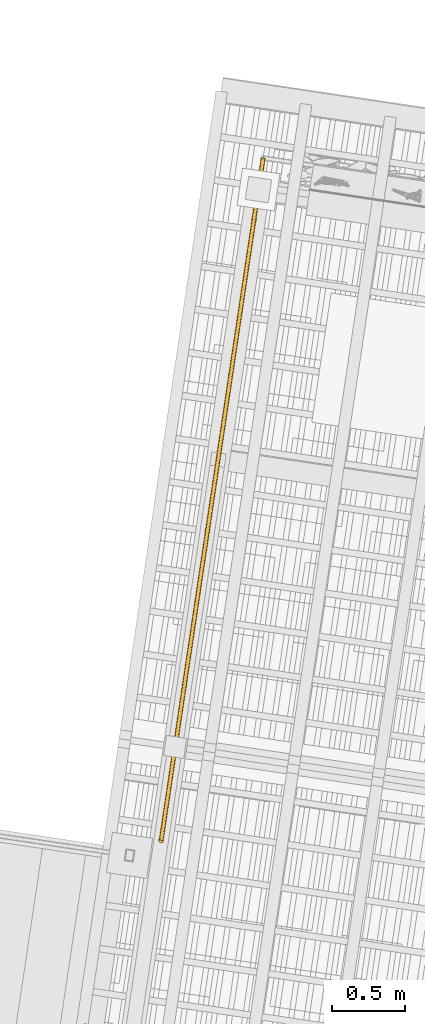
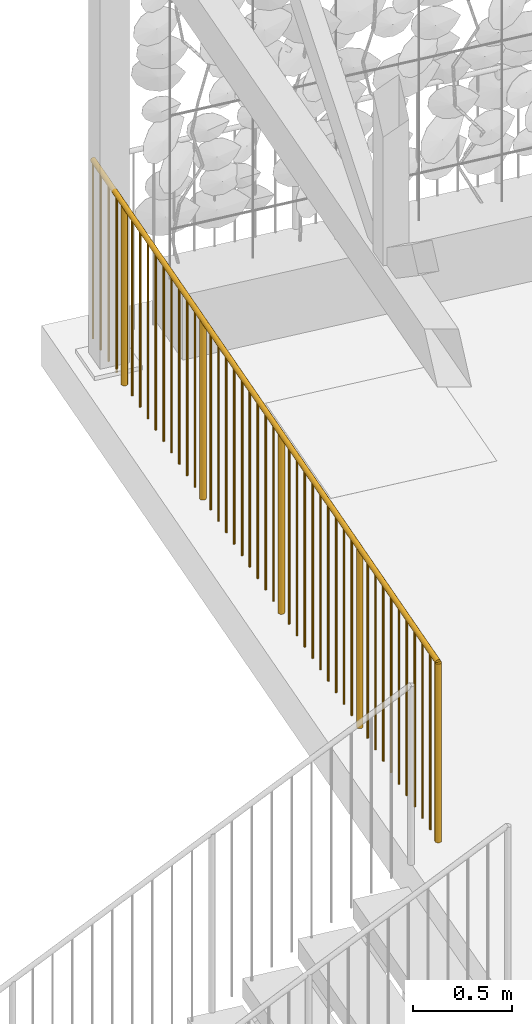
# One storey, part 127 of 131: 1 railing, 1 element without a shape of its own.
"""IFC4 building model written with IfcOpenShell, lengths in metres."""

from ifc_helpers import new_model, si_unit, direction, frame, origin_with_axes, place, context, subcontext, project, spatial, circle, extrude, material, element, aggregate, save


model = new_model("IFC4")

# Units and contexts
model_context = context("Model", 3, precision=1e-05, world=origin_with_axes(), true_north=direction((0.0, 1.0)))
body_context = subcontext(model_context, "Body", "Model", "MODEL_VIEW")
ifc_project = project(units=[si_unit("VOLUMEUNIT", "CUBIC_METRE"), si_unit("LENGTHUNIT", "METRE"), si_unit("AREAUNIT", "SQUARE_METRE")], contexts=[model_context])

# Site, building, storey
site_placement = place(None, origin_with_axes())
site = spatial("IfcSite", under=ifc_project, at=site_placement, Name="Lares · Rua das Mercês · artigo 4771")
building_placement = place(site_placement, frame((15.0, 9.7, 15.8), z_axis=(0.0, 0.0, 1.0), x_axis=(0.989015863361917, -0.147809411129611, 0.0)))
building = spatial("IfcBuilding", under=site, at=building_placement, Name="Casa Sobreposta")
storey_placement = place(building_placement, origin_with_axes())
storey = spatial("IfcBuildingStorey", under=building, at=storey_placement, Name="00 · Habitação e estacionamento", Elevation=15.8)

# Assembly, railing
assembly_placement = place(storey_placement, origin_with_axes())
assembly = element("IfcElementAssembly", 1, at=assembly_placement, inside=storey, Name="Pódio · terraço, casa térrea e cisterna", ObjectType="CISTERN_PODIUM", PredefinedType="USERDEFINED")
ifc_material = material(Name="Aço pintado / Stahl lackiert", Category="steel")
railing_placement = place(assembly_placement, origin_with_axes())
railing = element("IfcRailing", 2, at=railing_placement, material=ifc_material, Name="Pódio · guarda poente norte", PredefinedType="GUARDRAIL", context=body_context, shape_type="SweptSolid", body=[
    extrude(circle(Radius=0.015), frame((-6.05, 1.9, 1.06), z_axis=(0.0, 1.0, 0.0), x_axis=(1.0, 0.0, 0.0)), (0.0, 0.0, 1.0), 4.75),
    extrude(circle(Radius=0.0175), frame((-6.05, 1.9, -0.04), z_axis=(0.0, 0.0, 1.0), x_axis=(1.0, 0.0, 0.0)), (0.0, 0.0, 1.0), 1.1),
    extrude(circle(Radius=0.006), frame((-6.05, 2.00795454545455, -0.04), z_axis=(0.0, 0.0, 1.0), x_axis=(1.0, 0.0, 0.0)), (0.0, 0.0, 1.0), 1.1),
    extrude(circle(Radius=0.006), frame((-6.05, 2.11590909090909, -0.04), z_axis=(0.0, 0.0, 1.0), x_axis=(1.0, 0.0, 0.0)), (0.0, 0.0, 1.0), 1.1),
    extrude(circle(Radius=0.006), frame((-6.05, 2.22386363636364, -0.04), z_axis=(0.0, 0.0, 1.0), x_axis=(1.0, 0.0, 0.0)), (0.0, 0.0, 1.0), 1.1),
    extrude(circle(Radius=0.006), frame((-6.05, 2.33181818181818, -0.04), z_axis=(0.0, 0.0, 1.0), x_axis=(1.0, 0.0, 0.0)), (0.0, 0.0, 1.0), 1.1),
    extrude(circle(Radius=0.006), frame((-6.05, 2.43977272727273, -0.04), z_axis=(0.0, 0.0, 1.0), x_axis=(1.0, 0.0, 0.0)), (0.0, 0.0, 1.0), 1.1),
    extrude(circle(Radius=0.006), frame((-6.05, 2.54772727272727, -0.04), z_axis=(0.0, 0.0, 1.0), x_axis=(1.0, 0.0, 0.0)), (0.0, 0.0, 1.0), 1.1),
    extrude(circle(Radius=0.006), frame((-6.05, 2.65568181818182, -0.04), z_axis=(0.0, 0.0, 1.0), x_axis=(1.0, 0.0, 0.0)), (0.0, 0.0, 1.0), 1.1),
    extrude(circle(Radius=0.006), frame((-6.05, 2.76363636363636, -0.04), z_axis=(0.0, 0.0, 1.0), x_axis=(1.0, 0.0, 0.0)), (0.0, 0.0, 1.0), 1.1),
    extrude(circle(Radius=0.006), frame((-6.05, 2.87159090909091, -0.04), z_axis=(0.0, 0.0, 1.0), x_axis=(1.0, 0.0, 0.0)), (0.0, 0.0, 1.0), 1.1),
    extrude(circle(Radius=0.0175), frame((-6.05, 2.97954545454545, -0.04), z_axis=(0.0, 0.0, 1.0), x_axis=(1.0, 0.0, 0.0)), (0.0, 0.0, 1.0), 1.1),
    extrude(circle(Radius=0.006), frame((-6.05, 3.0875, -0.04), z_axis=(0.0, 0.0, 1.0), x_axis=(1.0, 0.0, 0.0)), (0.0, 0.0, 1.0), 1.1),
    extrude(circle(Radius=0.006), frame((-6.05, 3.19545454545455, -0.04), z_axis=(0.0, 0.0, 1.0), x_axis=(1.0, 0.0, 0.0)), (0.0, 0.0, 1.0), 1.1),
    extrude(circle(Radius=0.006), frame((-6.05, 3.30340909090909, -0.04), z_axis=(0.0, 0.0, 1.0), x_axis=(1.0, 0.0, 0.0)), (0.0, 0.0, 1.0), 1.1),
    extrude(circle(Radius=0.006), frame((-6.05, 3.41136363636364, -0.04), z_axis=(0.0, 0.0, 1.0), x_axis=(1.0, 0.0, 0.0)), (0.0, 0.0, 1.0), 1.1),
    extrude(circle(Radius=0.006), frame((-6.05, 3.51931818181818, -0.04), z_axis=(0.0, 0.0, 1.0), x_axis=(1.0, 0.0, 0.0)), (0.0, 0.0, 1.0), 1.1),
    extrude(circle(Radius=0.006), frame((-6.05, 3.62727272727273, -0.04), z_axis=(0.0, 0.0, 1.0), x_axis=(1.0, 0.0, 0.0)), (0.0, 0.0, 1.0), 1.1),
    extrude(circle(Radius=0.006), frame((-6.05, 3.73522727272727, -0.04), z_axis=(0.0, 0.0, 1.0), x_axis=(1.0, 0.0, 0.0)), (0.0, 0.0, 1.0), 1.1),
    extrude(circle(Radius=0.006), frame((-6.05, 3.84318181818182, -0.04), z_axis=(0.0, 0.0, 1.0), x_axis=(1.0, 0.0, 0.0)), (0.0, 0.0, 1.0), 1.1),
    extrude(circle(Radius=0.006), frame((-6.05, 3.95113636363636, -0.04), z_axis=(0.0, 0.0, 1.0), x_axis=(1.0, 0.0, 0.0)), (0.0, 0.0, 1.0), 1.1),
    extrude(circle(Radius=0.0175), frame((-6.05, 4.05909090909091, -0.04), z_axis=(0.0, 0.0, 1.0), x_axis=(1.0, 0.0, 0.0)), (0.0, 0.0, 1.0), 1.1),
    extrude(circle(Radius=0.006), frame((-6.05, 4.16704545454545, -0.04), z_axis=(0.0, 0.0, 1.0), x_axis=(1.0, 0.0, 0.0)), (0.0, 0.0, 1.0), 1.1),
    extrude(circle(Radius=0.006), frame((-6.05, 4.275, -0.04), z_axis=(0.0, 0.0, 1.0), x_axis=(1.0, 0.0, 0.0)), (0.0, 0.0, 1.0), 1.1),
    extrude(circle(Radius=0.006), frame((-6.05, 4.38295454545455, -0.04), z_axis=(0.0, 0.0, 1.0), x_axis=(1.0, 0.0, 0.0)), (0.0, 0.0, 1.0), 1.1),
    extrude(circle(Radius=0.006), frame((-6.05, 4.49090909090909, -0.04), z_axis=(0.0, 0.0, 1.0), x_axis=(1.0, 0.0, 0.0)), (0.0, 0.0, 1.0), 1.1),
    extrude(circle(Radius=0.006), frame((-6.05, 4.59886363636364, -0.04), z_axis=(0.0, 0.0, 1.0), x_axis=(1.0, 0.0, 0.0)), (0.0, 0.0, 1.0), 1.1),
    extrude(circle(Radius=0.006), frame((-6.05, 4.70681818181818, -0.04), z_axis=(0.0, 0.0, 1.0), x_axis=(1.0, 0.0, 0.0)), (0.0, 0.0, 1.0), 1.1),
    extrude(circle(Radius=0.006), frame((-6.05, 4.81477272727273, -0.04), z_axis=(0.0, 0.0, 1.0), x_axis=(1.0, 0.0, 0.0)), (0.0, 0.0, 1.0), 1.1),
    extrude(circle(Radius=0.006), frame((-6.05, 4.92272727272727, -0.04), z_axis=(0.0, 0.0, 1.0), x_axis=(1.0, 0.0, 0.0)), (0.0, 0.0, 1.0), 1.1),
    extrude(circle(Radius=0.006), frame((-6.05, 5.03068181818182, -0.04), z_axis=(0.0, 0.0, 1.0), x_axis=(1.0, 0.0, 0.0)), (0.0, 0.0, 1.0), 1.1),
    extrude(circle(Radius=0.0175), frame((-6.05, 5.13863636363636, -0.04), z_axis=(0.0, 0.0, 1.0), x_axis=(1.0, 0.0, 0.0)), (0.0, 0.0, 1.0), 1.1),
    extrude(circle(Radius=0.006), frame((-6.05, 5.24659090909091, -0.04), z_axis=(0.0, 0.0, 1.0), x_axis=(1.0, 0.0, 0.0)), (0.0, 0.0, 1.0), 1.1),
    extrude(circle(Radius=0.006), frame((-6.05, 5.35454545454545, -0.04), z_axis=(0.0, 0.0, 1.0), x_axis=(1.0, 0.0, 0.0)), (0.0, 0.0, 1.0), 1.1),
    extrude(circle(Radius=0.006), frame((-6.05, 5.4625, -0.04), z_axis=(0.0, 0.0, 1.0), x_axis=(1.0, 0.0, 0.0)), (0.0, 0.0, 1.0), 1.1),
    extrude(circle(Radius=0.006), frame((-6.05, 5.57045454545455, -0.04), z_axis=(0.0, 0.0, 1.0), x_axis=(1.0, 0.0, 0.0)), (0.0, 0.0, 1.0), 1.1),
    extrude(circle(Radius=0.006), frame((-6.05, 5.67840909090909, -0.04), z_axis=(0.0, 0.0, 1.0), x_axis=(1.0, 0.0, 0.0)), (0.0, 0.0, 1.0), 1.1),
    extrude(circle(Radius=0.006), frame((-6.05, 5.78636363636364, -0.04), z_axis=(0.0, 0.0, 1.0), x_axis=(1.0, 0.0, 0.0)), (0.0, 0.0, 1.0), 1.1),
    extrude(circle(Radius=0.006), frame((-6.05, 5.89431818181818, -0.04), z_axis=(0.0, 0.0, 1.0), x_axis=(1.0, 0.0, 0.0)), (0.0, 0.0, 1.0), 1.1),
    extrude(circle(Radius=0.006), frame((-6.05, 6.00227272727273, -0.04), z_axis=(0.0, 0.0, 1.0), x_axis=(1.0, 0.0, 0.0)), (0.0, 0.0, 1.0), 1.1),
    extrude(circle(Radius=0.006), frame((-6.05, 6.11022727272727, -0.04), z_axis=(0.0, 0.0, 1.0), x_axis=(1.0, 0.0, 0.0)), (0.0, 0.0, 1.0), 1.1),
    extrude(circle(Radius=0.0175), frame((-6.05, 6.21818181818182, -0.04), z_axis=(0.0, 0.0, 1.0), x_axis=(1.0, 0.0, 0.0)), (0.0, 0.0, 1.0), 1.1),
    extrude(circle(Radius=0.006), frame((-6.05, 6.32613636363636, -0.04), z_axis=(0.0, 0.0, 1.0), x_axis=(1.0, 0.0, 0.0)), (0.0, 0.0, 1.0), 1.1),
    extrude(circle(Radius=0.006), frame((-6.05, 6.43409090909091, -0.04), z_axis=(0.0, 0.0, 1.0), x_axis=(1.0, 0.0, 0.0)), (0.0, 0.0, 1.0), 1.1),
    extrude(circle(Radius=0.006), frame((-6.05, 6.54204545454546, -0.04), z_axis=(0.0, 0.0, 1.0), x_axis=(1.0, 0.0, 0.0)), (0.0, 0.0, 1.0), 1.1),
    extrude(circle(Radius=0.006), frame((-6.05, 6.65, -0.04), z_axis=(0.0, 0.0, 1.0), x_axis=(1.0, 0.0, 0.0)), (0.0, 0.0, 1.0), 1.1),
])
aggregate(assembly, [railing])

save(model, "model.ifc")
